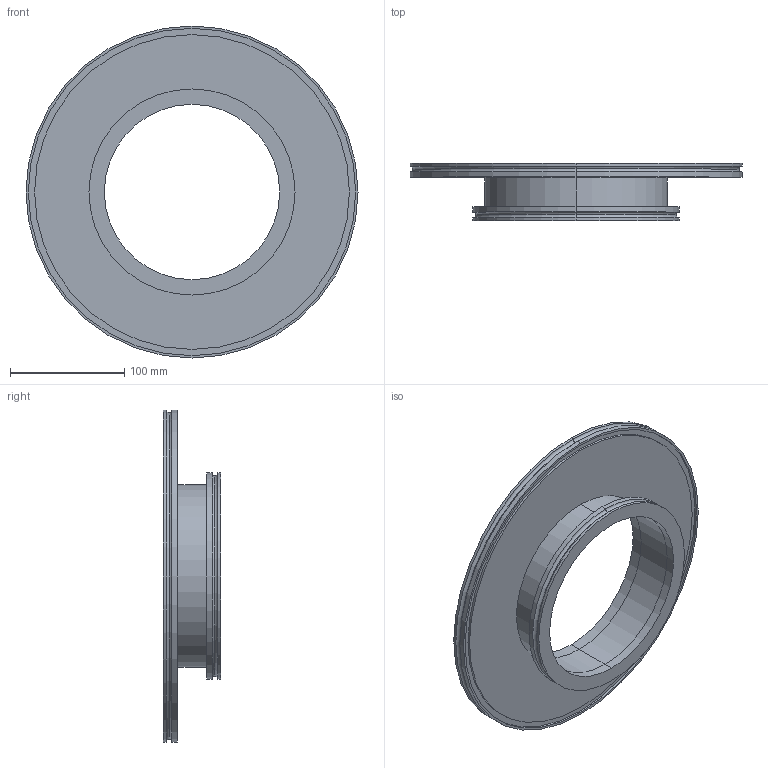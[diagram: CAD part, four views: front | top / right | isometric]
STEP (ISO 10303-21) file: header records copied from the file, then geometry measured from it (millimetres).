
FILE_DESCRIPTION (( 'STEP AP214' ), '1' );
FILE_NAME ('W4RS160-250.STEP', '2020-10-06T08:30:10', ( '' ), ( '' ), 'SwSTEP 2.0', 'SolidWorks 2020', '' );
FILE_SCHEMA (( 'AUTOMOTIVE_DESIGN' ));
Length unit declared in the file: millimetre
Products named in the file (1): W4RS160-250
Bounding box: 290 x 50 x 290 mm (x, y, z)
Volume: 643177.5 mm3; surface area: 187991.1 mm2
Topology: 3 solids, 3 shells, 51 faces, 102 edges, 64 vertices
Faces by surface type: cylinder 30, plane 13, torus 8
Entity records: 1416 total; most frequent: DIRECTION 278, CARTESIAN_POINT 218, ORIENTED_EDGE 204, AXIS2_PLACEMENT_3D 124, EDGE_CURVE 102, CIRCLE 72, VERTEX_POINT 64, EDGE_LOOP 64
